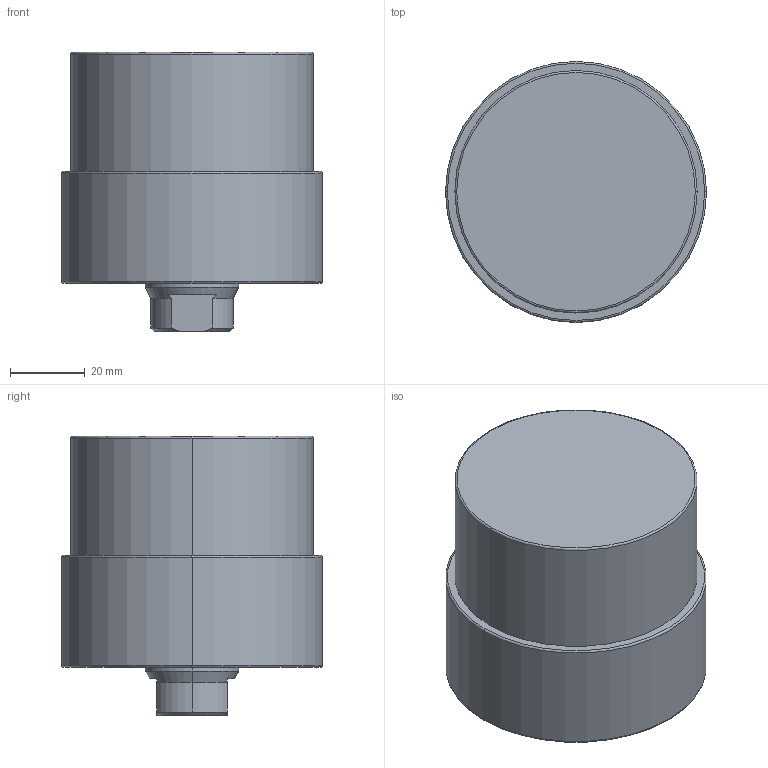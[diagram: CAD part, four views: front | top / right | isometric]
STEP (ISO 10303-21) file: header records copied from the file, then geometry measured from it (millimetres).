
FILE_DESCRIPTION (( 'STEP AP203' ), '1' );
FILE_NAME ('CLLU-065GA-015.STEP', '2020-01-06T08:02:41', ( '' ), ( '' ), 'SwSTEP 2.0', 'SolidWorks 2015', '' );
FILE_SCHEMA (( 'CONFIG_CONTROL_DESIGN' ));
Length unit declared in the file: millimetre
Products named in the file (1): CLLU-065GA-015
Bounding box: 70 x 70 x 75 mm (x, y, z)
Volume: 222176.6 mm3; surface area: 23698.3 mm2
Topology: 1 solids, 1 shells, 64 faces, 145 edges, 82 vertices
Faces by surface type: cone 25, cylinder 23, plane 10, torus 6
Entity records: 1811 total; most frequent: DIRECTION 332, CARTESIAN_POINT 310, ORIENTED_EDGE 270, AXIS2_PLACEMENT_3D 140, EDGE_CURVE 135, VERTEX_POINT 82, CIRCLE 75, EDGE_LOOP 73
